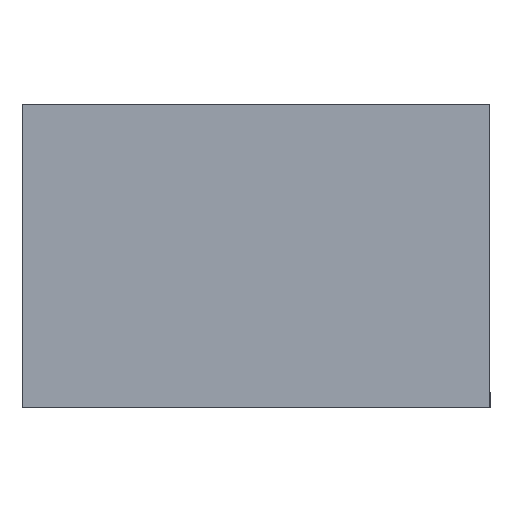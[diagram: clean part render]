
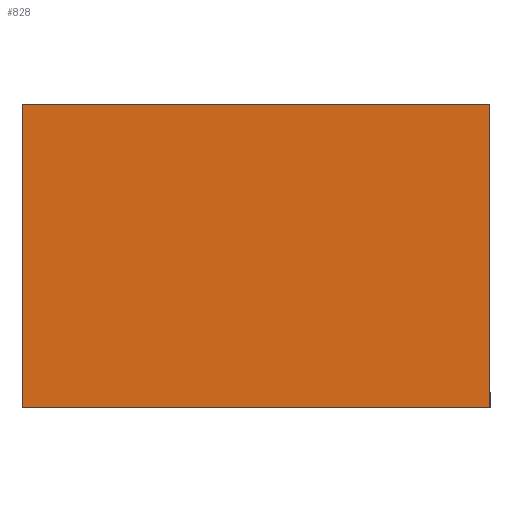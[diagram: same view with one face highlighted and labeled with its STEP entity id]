
A CAD part, left-side view. The second image highlights one B-rep face of the part: STEP entity #828.
In plain terms, the highlighted planar face has unit normal (-1, 0, 0).
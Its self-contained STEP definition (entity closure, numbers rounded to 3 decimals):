
#146=FACE_OUTER_BOUND('',#198,.T.);
#198=EDGE_LOOP('',(#615,#616,#617,#618));
#272=LINE('',#1306,#322);
#273=LINE('',#1309,#323);
#274=LINE('',#1311,#324);
#275=LINE('',#1312,#325);
#322=VECTOR('',#1039,10.);
#323=VECTOR('',#1042,10.);
#324=VECTOR('',#1043,10.);
#325=VECTOR('',#1044,10.);
#371=VERTEX_POINT('',#1299);
#374=VERTEX_POINT('',#1304);
#375=VERTEX_POINT('',#1308);
#376=VERTEX_POINT('',#1310);
#468=EDGE_CURVE('',#371,#374,#272,.T.);
#469=EDGE_CURVE('',#375,#371,#273,.T.);
#470=EDGE_CURVE('',#376,#374,#274,.T.);
#471=EDGE_CURVE('',#375,#376,#275,.T.);
#615=ORIENTED_EDGE('',*,*,#469,.T.);
#616=ORIENTED_EDGE('',*,*,#468,.T.);
#617=ORIENTED_EDGE('',*,*,#470,.F.);
#618=ORIENTED_EDGE('',*,*,#471,.F.);
#802=PLANE('',#912);
#828=ADVANCED_FACE('',(#146),#802,.T.);
#912=AXIS2_PLACEMENT_3D('',#1307,#1040,#1041);
#1039=DIRECTION('',(0.,0.,-1.));
#1040=DIRECTION('center_axis',(-1.,0.,0.));
#1041=DIRECTION('ref_axis',(0.,1.,0.));
#1042=DIRECTION('',(0.,1.,0.));
#1043=DIRECTION('',(0.,1.,0.));
#1044=DIRECTION('',(0.,0.,-1.));
#1299=CARTESIAN_POINT('',(-41.207,58.939,23.));
#1304=CARTESIAN_POINT('',(-41.207,58.939,-27.));
#1306=CARTESIAN_POINT('',(-41.207,58.939,25.));
#1307=CARTESIAN_POINT('Origin',(-41.207,-18.061,25.));
#1308=CARTESIAN_POINT('',(-41.207,-18.061,23.));
#1309=CARTESIAN_POINT('',(-41.207,1.189,23.));
#1310=CARTESIAN_POINT('',(-41.207,-18.061,-27.));
#1311=CARTESIAN_POINT('',(-41.207,-18.061,-27.));
#1312=CARTESIAN_POINT('',(-41.207,-18.061,25.));
